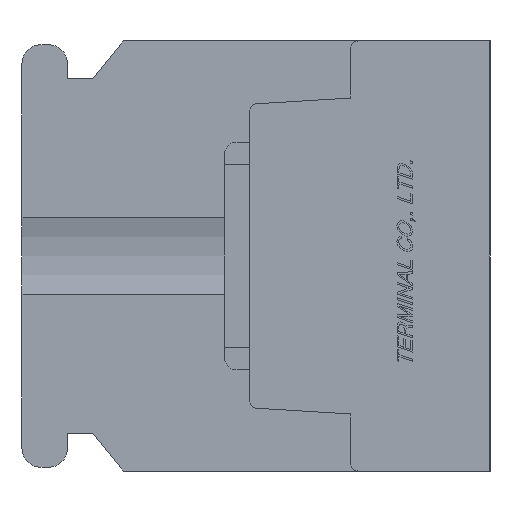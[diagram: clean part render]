
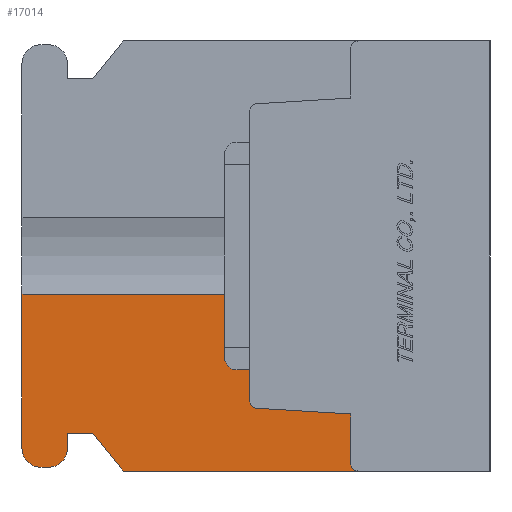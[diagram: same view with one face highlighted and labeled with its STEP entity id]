
A CAD part, left-side view. The second image highlights one B-rep face of the part: STEP entity #17014.
In plain terms, the highlighted planar face has unit normal (-1, 0, 0).
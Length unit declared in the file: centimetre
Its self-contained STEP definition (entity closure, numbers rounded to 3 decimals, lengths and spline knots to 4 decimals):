
#1247=VECTOR('',#18595,1.);
#1248=VECTOR('',#18596,1.);
#1249=VECTOR('',#18597,1.);
#1250=VECTOR('',#18600,1.);
#1251=VECTOR('',#18603,1.);
#1252=VECTOR('',#18604,1.);
#1253=VECTOR('',#18605,1.);
#1254=VECTOR('',#18606,1.);
#1255=VECTOR('',#18609,1.);
#1256=VECTOR('',#18610,1.);
#3055=LINE('',#23357,#1247);
#3056=LINE('',#23360,#1248);
#3057=LINE('',#23362,#1249);
#3058=LINE('',#23366,#1250);
#3059=LINE('',#23370,#1251);
#3060=LINE('',#23372,#1252);
#3061=LINE('',#23374,#1253);
#3062=LINE('',#23376,#1254);
#3063=LINE('',#23380,#1255);
#3064=LINE('',#23382,#1256);
#4482=PLANE('',#28004);
#5428=VERTEX_POINT('',#23358);
#5429=VERTEX_POINT('',#23359);
#5430=VERTEX_POINT('',#23361);
#5431=VERTEX_POINT('',#23363);
#5432=VERTEX_POINT('',#23365);
#5433=VERTEX_POINT('',#23367);
#5434=VERTEX_POINT('',#23369);
#5435=VERTEX_POINT('',#23371);
#5436=VERTEX_POINT('',#23373);
#5437=VERTEX_POINT('',#23375);
#5438=VERTEX_POINT('',#23377);
#5439=VERTEX_POINT('',#23379);
#5440=VERTEX_POINT('',#23381);
#5441=VERTEX_POINT('',#23383);
#6694=CIRCLE('',#28005,0.075);
#6695=CIRCLE('',#28006,0.075);
#6696=CIRCLE('',#28007,0.03);
#6697=CIRCLE('',#28008,0.03);
#7749=EDGE_CURVE('',#5428,#5429,#3055,.T.);
#7750=EDGE_CURVE('',#5428,#5430,#3056,.T.);
#7751=EDGE_CURVE('',#5431,#5430,#3057,.T.);
#7752=EDGE_CURVE('',#5432,#5431,#6694,.T.);
#7753=EDGE_CURVE('',#5433,#5432,#3058,.T.);
#7754=EDGE_CURVE('',#5434,#5433,#6695,.T.);
#7755=EDGE_CURVE('',#5435,#5434,#3059,.T.);
#7756=EDGE_CURVE('',#5436,#5435,#3060,.T.);
#7757=EDGE_CURVE('',#5437,#5436,#3061,.T.);
#7758=EDGE_CURVE('',#5438,#5437,#3062,.T.);
#7759=EDGE_CURVE('',#5439,#5438,#6696,.T.);
#7760=EDGE_CURVE('',#5440,#5439,#3063,.T.);
#7761=EDGE_CURVE('',#5441,#5440,#3064,.T.);
#7762=EDGE_CURVE('',#5429,#5441,#6697,.T.);
#10947=ORIENTED_EDGE('',*,*,#7749,.F.);
#10948=ORIENTED_EDGE('',*,*,#7750,.T.);
#10949=ORIENTED_EDGE('',*,*,#7751,.F.);
#10950=ORIENTED_EDGE('',*,*,#7752,.F.);
#10951=ORIENTED_EDGE('',*,*,#7753,.F.);
#10952=ORIENTED_EDGE('',*,*,#7754,.F.);
#10953=ORIENTED_EDGE('',*,*,#7755,.F.);
#10954=ORIENTED_EDGE('',*,*,#7756,.F.);
#10955=ORIENTED_EDGE('',*,*,#7757,.F.);
#10956=ORIENTED_EDGE('',*,*,#7758,.F.);
#10957=ORIENTED_EDGE('',*,*,#7759,.F.);
#10958=ORIENTED_EDGE('',*,*,#7760,.F.);
#10959=ORIENTED_EDGE('',*,*,#7761,.F.);
#10960=ORIENTED_EDGE('',*,*,#7762,.F.);
#14958=EDGE_LOOP('',(#10947,#10948,#10949,#10950,#10951,#10952,#10953,#10954,
#10955,#10956,#10957,#10958,#10959,#10960));
#16000=FACE_BOUND('',#14958,.T.);
#17014=ADVANCED_FACE('',(#16000),#4482,.F.);
#18594=DIRECTION('',(1.,0.,0.));
#18595=DIRECTION('',(0.,0.,-1.));
#18596=DIRECTION('',(0.,1.,0.));
#18597=DIRECTION('',(0.,0.,1.));
#18598=DIRECTION('',(1.,0.,0.));
#18599=DIRECTION('',(0.,0.,-0.075));
#18600=DIRECTION('',(0.,1.,0.));
#18601=DIRECTION('',(1.,0.,0.));
#18602=DIRECTION('',(0.,0.,-0.075));
#18603=DIRECTION('',(0.,0.,-1.));
#18604=DIRECTION('',(0.,1.,0.));
#18605=DIRECTION('',(0.,0.625,0.781));
#18606=DIRECTION('',(0.,1.,0.));
#18607=DIRECTION('',(-1.,0.,0.));
#18608=DIRECTION('',(0.,0.,0.03));
#18609=DIRECTION('',(0.,0.,-1.));
#18610=DIRECTION('',(0.,-0.998,-0.061));
#18611=DIRECTION('',(-1.,0.,0.));
#18612=DIRECTION('',(0.,0.,0.03));
#23356=CARTESIAN_POINT('',(-1.1,0.9454,0.));
#23357=CARTESIAN_POINT('',(-1.1,0.95,0.5718));
#23358=CARTESIAN_POINT('',(-1.1,0.95,-0.1521));
#23359=CARTESIAN_POINT('',(-1.1,0.95,-0.5718));
#23360=CARTESIAN_POINT('',(-1.1,1.4,-0.1521));
#23361=CARTESIAN_POINT('',(-1.1,1.85,-0.1521));
#23362=CARTESIAN_POINT('',(-1.1,1.85,-0.76));
#23363=CARTESIAN_POINT('',(-1.1,1.85,-0.76));
#23364=CARTESIAN_POINT('',(-1.1,1.775,-0.76));
#23365=CARTESIAN_POINT('',(-1.1,1.775,-0.835));
#23366=CARTESIAN_POINT('',(-1.1,1.745,-0.835));
#23367=CARTESIAN_POINT('',(-1.1,1.745,-0.835));
#23368=CARTESIAN_POINT('',(-1.1,1.745,-0.76));
#23369=CARTESIAN_POINT('',(-1.1,1.67,-0.76));
#23370=CARTESIAN_POINT('',(-1.1,1.67,-0.7));
#23371=CARTESIAN_POINT('',(-1.1,1.67,-0.7));
#23372=CARTESIAN_POINT('',(-1.1,1.57,-0.7));
#23373=CARTESIAN_POINT('',(-1.1,1.57,-0.7));
#23374=CARTESIAN_POINT('',(-1.1,1.45,-0.85));
#23375=CARTESIAN_POINT('',(-1.1,1.45,-0.85));
#23376=CARTESIAN_POINT('',(-1.1,0.,-0.85));
#23377=CARTESIAN_POINT('',(-1.1,0.52,-0.85));
#23378=CARTESIAN_POINT('',(-1.1,0.52,-0.82));
#23379=CARTESIAN_POINT('',(-1.1,0.55,-0.82));
#23380=CARTESIAN_POINT('',(-1.1,0.55,-0.6245));
#23381=CARTESIAN_POINT('',(-1.1,0.55,-0.6245));
#23382=CARTESIAN_POINT('',(-1.1,0.9218,-0.6017));
#23383=CARTESIAN_POINT('',(-1.1,0.9218,-0.6017));
#23384=CARTESIAN_POINT('',(-1.1,0.92,-0.5718));
#28004=AXIS2_PLACEMENT_3D('',#23356,#18594,$);
#28005=AXIS2_PLACEMENT_3D('',#23364,#18598,#18599);
#28006=AXIS2_PLACEMENT_3D('',#23368,#18601,#18602);
#28007=AXIS2_PLACEMENT_3D('',#23378,#18607,#18608);
#28008=AXIS2_PLACEMENT_3D('',#23384,#18611,#18612);
